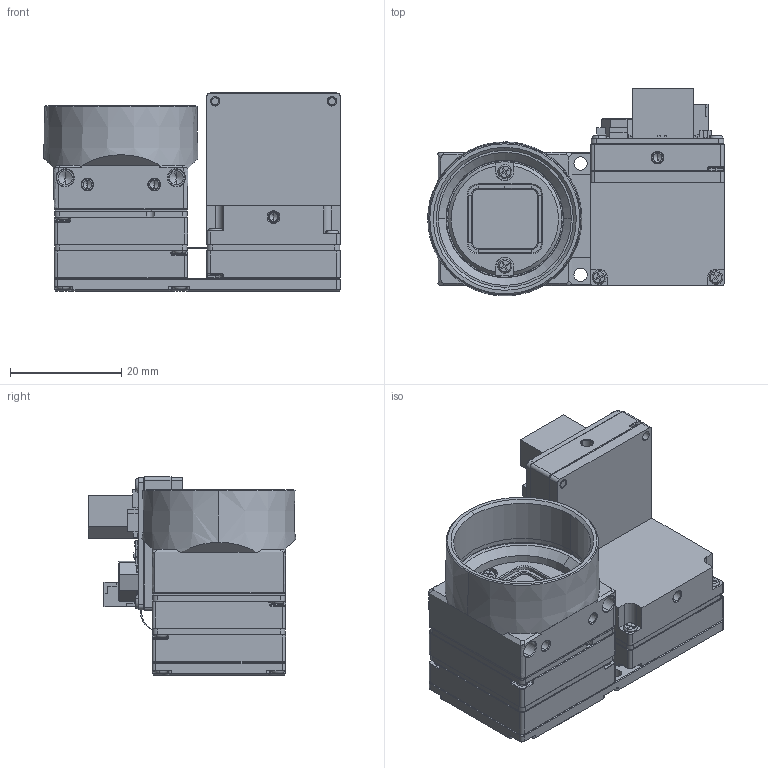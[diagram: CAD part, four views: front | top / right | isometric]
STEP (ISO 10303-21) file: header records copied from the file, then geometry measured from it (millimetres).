
FILE_DESCRIPTION (( 'STEP AP203' ), '1' );
FILE_NAME ('408-379-A_IX_180+90.STEP', '2023-03-02T07:44:41', ( '' ), ( '' ), 'SwSTEP 2.0', 'SolidWorks 2021', '' );
FILE_SCHEMA (( 'CONFIG_CONTROL_DESIGN' ));
Products named in the file (1): 408-379-A_IX_180+90
Bounding box: 53.31 x 37.34 x 35.6 mm (x, y, z)
Volume: 15388.8 mm3; surface area: 25046.8 mm2
Topology: 85 solids, 85 shells, 5534 faces, 14068 edges, 8609 vertices
Faces by surface type: plane 3051, cylinder 1400, cone 471, bspline 323, torus 199, sphere 90
Entity records: 170313 total; most frequent: CARTESIAN_POINT 38594, ORIENTED_EDGE 27680, DIRECTION 26882, EDGE_CURVE 13840, VECTOR 9540, LINE 9540, AXIS2_PLACEMENT_3D 8671, VERTEX_POINT 8599
